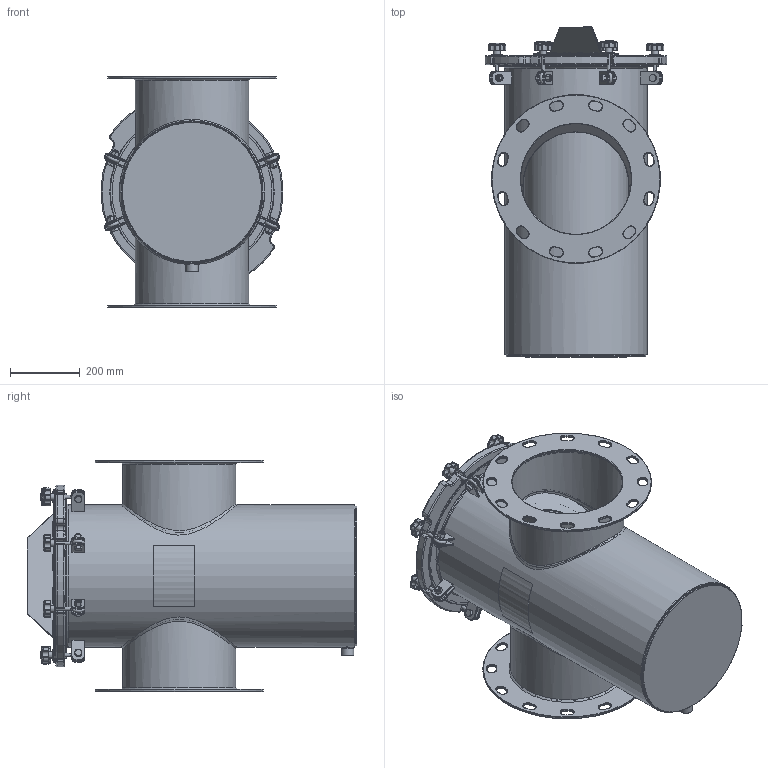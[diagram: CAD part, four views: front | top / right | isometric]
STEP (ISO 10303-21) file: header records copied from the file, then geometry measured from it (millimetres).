
FILE_DESCRIPTION(/* description */ ('16" STRAINER BODY'),/* implementation_level */ '2;1');
FILE_NAME(/* name */ 'C:\Users\20093558\Downloads\New folder\Ready for delivery - Do not Disturb -Updated with metric Flange\Workspace\SS Straight\150NBSTL12-M.stp',/* time_stamp */ '2016-09-29T20:07:26+06:00',/* author */ ('20093558'),/* organization */ (''),/* preprocessor_version */ 'ST-DEVELOPER v16.1',/* originating_system */ 'Autodesk Inventor 2016',/* authorisation */ '');
FILE_SCHEMA (('AUTOMOTIVE_DESIGN { 1 0 10303 214 3 1 1 }'));
Length unit declared in the file: inch
Products named in the file (34): NBSSBODY12_Welds; FOR NBSSBODY12; FOR 16 DIA STRAINER BODY; FOR 16 DIA STRAINER BODY_1; 16 Body; ConcentricPipe-12(_DQ) - M; 12(_DQ); For 16 Body; ASME B16.11 Half Coupling Threaded - Class 3000 3_4 x 3_4; 16 Body_1; NBSSBODY12; 150NBCVR20R2; 150NBGSK16R1; Perforated Basket 16in; Bride (Ring) 16in; Baffle 16in; Handle 16in; Bottom Strainer 16in; NBBSK10T316; BRACESTRCVR16_Welds; BRACE (BASE) FOR 16 BODY; BRACE (PROJ) FOR 16 BODY; Bumper; BRACESTRCVR16; Nut- 1_2  UNC; Bolt-1_2 x 1 1_2  UNC; EyeBolt; Washer; Knob M10; Securing Assembly with Brace; Securing Assembly without Brace; Label for 16 inch (Right); Label for 16 inch (Left); Guardian SS H&L Strainer (Inch)
Assembly tree (69 placements, depth 3):
  Guardian SS H&L Strainer (Inch)
    NBSSBODY12
      NBSSBODY12_Welds
      FOR NBSSBODY12
      FOR 16 DIA STRAINER BODY
      FOR 16 DIA STRAINER BODY_1
      16 Body  x4
      ConcentricPipe-12(_DQ) - M  x2
      12(_DQ)  x2
      For 16 Body
      ASME B16.11 Half Coupling Threaded - Class 3000 3_4 x 3_4
      16 Body_1  x16
    150NBCVR20R2
    150NBGSK16R1
    NBBSK10T316
      Perforated Basket 16in
      Bride (Ring) 16in
      Baffle 16in
      Handle 16in
      Bottom Strainer 16in
    BRACESTRCVR16
      BRACESTRCVR16_Welds
      BRACE (BASE) FOR 16 BODY
      BRACE (PROJ) FOR 16 BODY
      Bumper  x6
    Securing Assembly with Brace  x2
      Nut- 1_2  UNC
      Bolt-1_2 x 1 1_2  UNC
      EyeBolt
      Washer
      Knob M10
    Securing Assembly without Brace  x6
      Nut- 1_2  UNC
      Bolt-1_2 x 1 1_2  UNC
      EyeBolt
      Washer
      Knob M10
    Label for 16 inch (Right)
    Label for 16 inch (Left)
Bounding box: 519.38 x 942.98 x 660.4 mm (x, y, z)
Volume: 16366073.7 mm3; surface area: 5838589.5 mm2
Topology: 109 solids, 109 shells, 2338 faces, 5181 edges, 3039 vertices
Faces by surface type: cylinder 835, plane 636, torus 420, cone 189, sphere 142, bspline 116
Full cylindrical faces by diameter (mm): 3.175 x11, 6.35 x1, 8.382 x8, 9.525 x16, 10.592 x8, 12.7 x8, 15.875 x16, 19 x16, 19.05 x8, 22.8 x1, 22.809 x1, 31.75 x8, 35.052 x1, 295.275 x2, 298.45 x1, 300.99 x1, 315.912 x2, 318.292 x4, 323.85 x6, 393.7 x3, 400.05 x2, 406.4 x2, 409.575 x1, 415.925 x1, 457.2 x1, 463.55 x1, 469.9 x1, 482.6 x2
Entity records: 34483 total; most frequent: CARTESIAN_POINT 11119, DIRECTION 5066, ORIENTED_EDGE 4208, EDGE_CURVE 2104, AXIS2_PLACEMENT_3D 2103, VERTEX_POINT 1303, EDGE_LOOP 1147, CIRCLE 990
